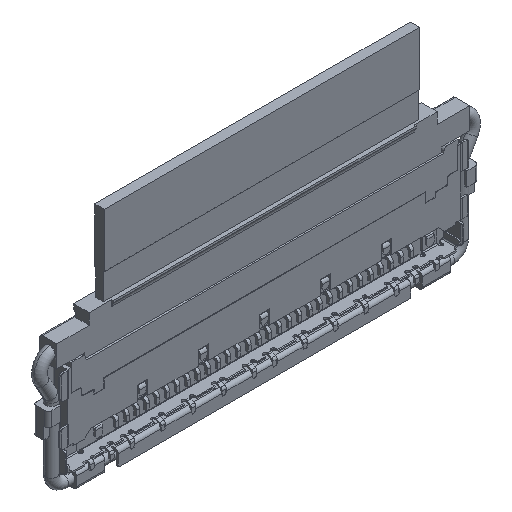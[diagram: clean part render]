
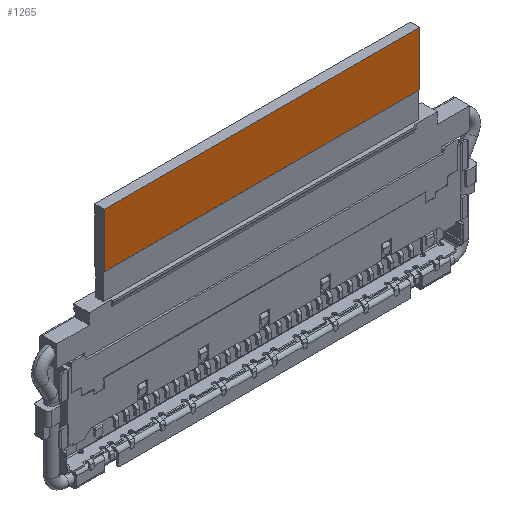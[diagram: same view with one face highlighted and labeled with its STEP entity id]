
A CAD part, isometric view. The second image highlights one B-rep face of the part: STEP entity #1265.
In plain terms, the highlighted planar face has unit normal (0, -1, 0).
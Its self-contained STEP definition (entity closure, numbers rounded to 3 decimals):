
#719 = AXIS2_PLACEMENT_3D ( 'NONE', #45849, #27979, #6442 ) ;
#858 = VERTEX_POINT ( 'NONE', #36225 ) ;
#1265 = ADVANCED_FACE ( 'NONE', ( #4220 ), #2840, .F. ) ;
#1952 = CARTESIAN_POINT ( 'NONE',  ( 7.75, 0.15, 3.04 ) ) ;
#2840 = PLANE ( 'NONE',  #719 ) ;
#4220 = FACE_OUTER_BOUND ( 'NONE', #19672, .T. ) ;
#4448 = LINE ( 'NONE', #1952, #13993 ) ;
#5396 = EDGE_CURVE ( 'NONE', #858, #30462, #4448, .T. ) ;
#5448 = LINE ( 'NONE', #43842, #34144 ) ;
#6442 = DIRECTION ( 'NONE',  ( 0., 0., 1. ) ) ;
#8872 = ORIENTED_EDGE ( 'NONE', *, *, #5396, .F. ) ;
#9001 = VECTOR ( 'NONE', #20091, 1000. ) ;
#10431 = EDGE_CURVE ( 'NONE', #31776, #858, #18561, .T. ) ;
#12227 = EDGE_CURVE ( 'NONE', #38559, #31776, #5448, .T. ) ;
#12432 = VECTOR ( 'NONE', #16173, 1000. ) ;
#12556 = CARTESIAN_POINT ( 'NONE',  ( -0.55, 0.15, 1.71 ) ) ;
#13993 = VECTOR ( 'NONE', #27065, 1000. ) ;
#16173 = DIRECTION ( 'NONE',  ( -1., 0., 0. ) ) ;
#17841 = CARTESIAN_POINT ( 'NONE',  ( -7.75, 0.15, 4.37 ) ) ;
#18046 = ORIENTED_EDGE ( 'NONE', *, *, #10431, .F. ) ;
#18561 = LINE ( 'NONE', #34399, #9001 ) ;
#19672 = EDGE_LOOP ( 'NONE', ( #18046, #38546, #33330, #8872 ) ) ;
#20091 = DIRECTION ( 'NONE',  ( 1., 0., 0. ) ) ;
#20276 = EDGE_CURVE ( 'NONE', #30462, #38559, #41203, .T. ) ;
#25805 = DIRECTION ( 'NONE',  ( 0., 0., 1. ) ) ;
#27065 = DIRECTION ( 'NONE',  ( 0., 0., -1. ) ) ;
#27979 = DIRECTION ( 'NONE',  ( 0., 1., 0. ) ) ;
#30462 = VERTEX_POINT ( 'NONE', #45425 ) ;
#31776 = VERTEX_POINT ( 'NONE', #17841 ) ;
#33330 = ORIENTED_EDGE ( 'NONE', *, *, #20276, .F. ) ;
#34144 = VECTOR ( 'NONE', #25805, 1000. ) ;
#34399 = CARTESIAN_POINT ( 'NONE',  ( -0.55, 0.15, 4.37 ) ) ;
#36225 = CARTESIAN_POINT ( 'NONE',  ( 7.75, 0.15, 4.37 ) ) ;
#37266 = CARTESIAN_POINT ( 'NONE',  ( -7.75, 0.15, 1.71 ) ) ;
#38546 = ORIENTED_EDGE ( 'NONE', *, *, #12227, .F. ) ;
#38559 = VERTEX_POINT ( 'NONE', #37266 ) ;
#41203 = LINE ( 'NONE', #12556, #12432 ) ;
#43842 = CARTESIAN_POINT ( 'NONE',  ( -7.75, 0.15, 3.04 ) ) ;
#45425 = CARTESIAN_POINT ( 'NONE',  ( 7.75, 0.15, 1.71 ) ) ;
#45849 = CARTESIAN_POINT ( 'NONE',  ( -8.85, 0.15, 1.71 ) ) ;
